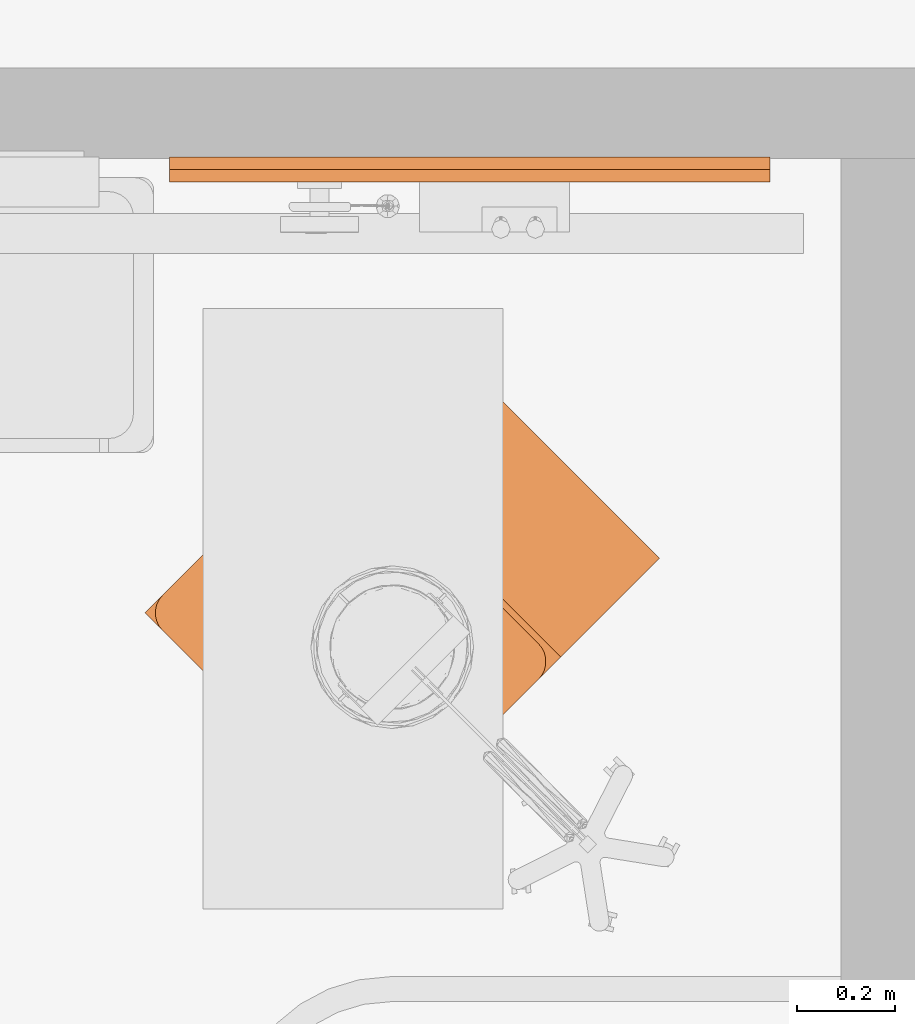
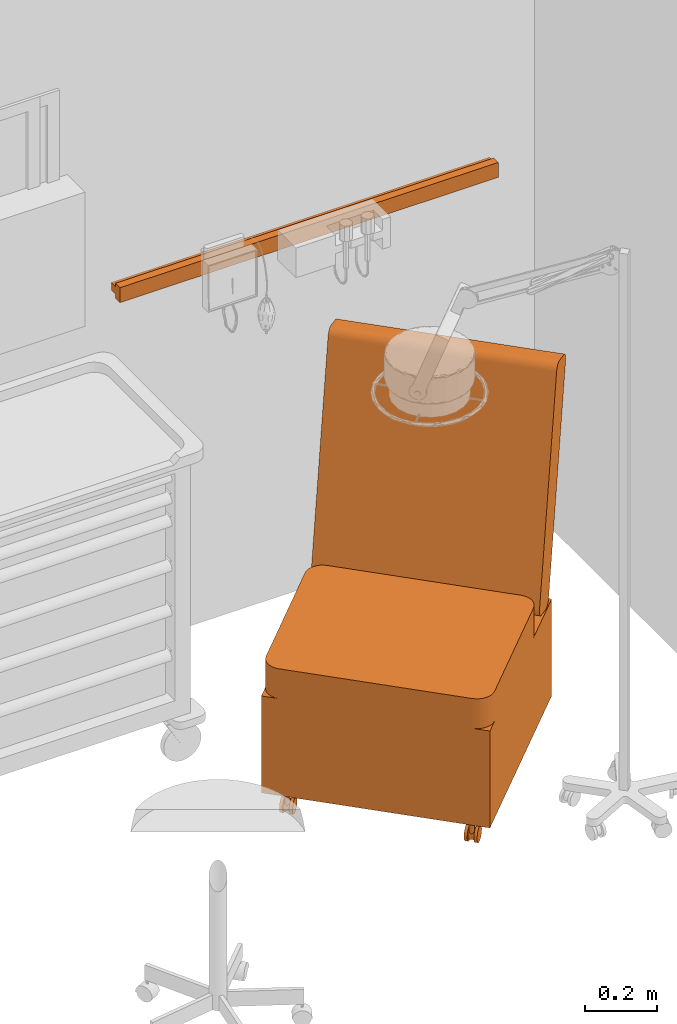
# One storey, part 45 of 142: 2 proxies.
"""IFC2X3 building model written with IfcOpenShell, lengths in feet."""

from ifc_helpers import new_model, entity, si_unit, converted_unit, derived_unit, direction, frame, frame_2d, origin, origin_2d_with_axis, place, context, subcontext, project, spatial, polyline, circle_curve, parameter, trimmed, segment, composite_curve, rectangle, circle, outline, extrude, source, transform, mapped, type_object, type_shapes, element, save


model = new_model("IFC2X3")

# Units and contexts
model_context = context("Model", 3, precision=0.0001, world=origin(), true_north=direction((6.12303176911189e-17, 1.0)))
body_context = subcontext(model_context, "Body", "Model", "MODEL_VIEW")
ifc_project = project(units=[converted_unit("LENGTHUNIT", "FOOT", entity("IfcRatioMeasure", 0.3048), si_unit("LENGTHUNIT", "METRE"), dimensions=[1, 0, 0, 0, 0, 0, 0]), converted_unit("AREAUNIT", "SQUARE FOOT", entity("IfcRatioMeasure", 0.09290304), si_unit("AREAUNIT", "SQUARE_METRE"), dimensions=[2, 0, 0, 0, 0, 0, 0]), converted_unit("VOLUMEUNIT", "CUBIC FOOT", entity("IfcRatioMeasure", 0.028316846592), si_unit("VOLUMEUNIT", "CUBIC_METRE"), dimensions=[3, 0, 0, 0, 0, 0, 0]), converted_unit("PLANEANGLEUNIT", "DEGREE", entity("IfcRatioMeasure", 0.0174532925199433), si_unit("PLANEANGLEUNIT", "RADIAN"), dimensions=[0, 0, 0, 0, 0, 0, 0]), si_unit("MASSUNIT", "GRAM", prefix="KILO"), derived_unit("MASSDENSITYUNIT", [(si_unit("MASSUNIT", "GRAM", prefix="KILO"), 1), (si_unit("LENGTHUNIT", "METRE"), -3)]), si_unit("TIMEUNIT", "SECOND"), si_unit("FREQUENCYUNIT", "HERTZ"), si_unit("THERMODYNAMICTEMPERATUREUNIT", "DEGREE_CELSIUS"), derived_unit("THERMALTRANSMITTANCEUNIT", [(si_unit("MASSUNIT", "GRAM", prefix="KILO"), 1), (si_unit("THERMODYNAMICTEMPERATUREUNIT", "KELVIN"), -1), (si_unit("TIMEUNIT", "SECOND"), -3)]), derived_unit("VOLUMETRICFLOWRATEUNIT", [(si_unit("LENGTHUNIT", "METRE"), 3), (si_unit("TIMEUNIT", "SECOND"), -1)]), si_unit("ELECTRICCURRENTUNIT", "AMPERE"), si_unit("ELECTRICVOLTAGEUNIT", "VOLT"), si_unit("POWERUNIT", "WATT"), si_unit("FORCEUNIT", "NEWTON"), si_unit("ILLUMINANCEUNIT", "LUX"), si_unit("LUMINOUSFLUXUNIT", "LUMEN"), si_unit("LUMINOUSINTENSITYUNIT", "CANDELA"), derived_unit("USERDEFINED", [(si_unit("MASSUNIT", "GRAM", prefix="KILO"), -1), (si_unit("LENGTHUNIT", "METRE"), -2), (si_unit("TIMEUNIT", "SECOND"), 3), (si_unit("LUMINOUSFLUXUNIT", "LUMEN"), 1)]), derived_unit("LINEARVELOCITYUNIT", [(si_unit("LENGTHUNIT", "METRE"), 1), (si_unit("TIMEUNIT", "SECOND"), -1)]), si_unit("PRESSUREUNIT", "PASCAL"), derived_unit("USERDEFINED", [(si_unit("LENGTHUNIT", "METRE"), -2), (si_unit("MASSUNIT", "GRAM", prefix="KILO"), 1), (si_unit("TIMEUNIT", "SECOND"), -2)])], contexts=[model_context])

# Site, building, storey, space
site_placement = place(None, origin())
site = spatial("IfcSite", under=ifc_project, at=site_placement, Name="Default", CompositionType="ELEMENT")
building_placement = place(site_placement, origin())
building = spatial("IfcBuilding", under=site, at=building_placement, Name="OUTPATIENT / PACT CLINIC (Ch. 265)", CompositionType="ELEMENT")
storey_placement = place(building_placement, origin())
storey = spatial("IfcBuildingStorey", under=building, at=storey_placement, Name="LEVEL 1", CompositionType="ELEMENT", Elevation=0.0)
space_placement = place(storey_placement, origin())
space = spatial("IfcSpace", under=storey, at=space_placement, Name="EXPA1", CompositionType="ELEMENT", InteriorOrExteriorSpace="INTERNAL")

# Proxies
building_element_proxy_type_1 = type_object("IfcBuildingElementProxyType", Name="Exam/Treatment Table with Cabinet", PredefinedType="NOTDEFINED")
shared_shape_1 = source(origin(), body_context, "Body", "SweptSolid", [
    extrude(circle(Radius=0.0833333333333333, at=frame_2d((0.0, -1.38777878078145e-16), x_axis=(1.0, 0.0))), frame((-0.843750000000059, 0.432291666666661, 0.0833333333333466), z_axis=(1.0, 0.0, 0.0), x_axis=(0.0, 1.0, 0.0)), (0.0, 0.0, 1.0), 0.0312500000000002),
    extrude(circle(Radius=0.0260416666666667, at=frame_2d((0.0, -5.55111512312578e-17), x_axis=(1.0, 0.0))), frame((-0.87500000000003, 0.463541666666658, 0.0801325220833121), z_axis=(0.0, 0.0, 1.0), x_axis=(-1.0, 0.0, 0.0)), (0.0, 0.0, 1.0), 0.211534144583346),
    extrude(circle(Radius=0.0625, at=frame_2d((0.0, -2.77555756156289e-16), x_axis=(1.0, 0.0))), frame((-0.90625000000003, 0.432291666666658, 0.0833333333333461), z_axis=(1.0, 0.0, 0.0), x_axis=(0.0, -1.0, 0.0)), (0.0, 0.0, 1.0), 0.0625),
    extrude(circle(Radius=0.0833333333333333, at=frame_2d((0.0, -1.38777878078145e-16), x_axis=(1.0, 0.0))), frame((-0.93750000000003, 0.432291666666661, 0.0833333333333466), z_axis=(1.0, 0.0, 0.0), x_axis=(0.0, 1.0, 0.0)), (0.0, 0.0, 1.0), 0.0312500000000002),
    extrude(circle(Radius=0.0833333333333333, at=frame_2d((0.0, -3.7470027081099e-16), x_axis=(1.0, 0.0))), frame((0.81250000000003, 0.432291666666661, 0.083333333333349), z_axis=(1.0, 0.0, 0.0), x_axis=(0.0, 1.0, 0.0)), (0.0, 0.0, 1.0), 0.0312500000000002),
    extrude(circle(Radius=0.0260416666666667, at=frame_2d((0.0, -5.55111512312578e-17), x_axis=(1.0, 0.0))), frame((0.875000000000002, 0.463541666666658, 0.0801325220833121)), (0.0, 0.0, 1.0), 0.211534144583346),
    extrude(circle(Radius=0.0625, at=frame_2d((0.0, -1.11022302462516e-16), x_axis=(1.0, 0.0))), frame((0.843750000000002, 0.432291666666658, 0.0833333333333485), z_axis=(1.0, 0.0, 0.0), x_axis=(0.0, -1.0, 0.0)), (0.0, 0.0, 1.0), 0.0625),
    extrude(circle(Radius=0.0833333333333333, at=frame_2d((0.0, -3.7470027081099e-16), x_axis=(1.0, 0.0))), frame((0.906250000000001, 0.432291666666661, 0.083333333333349), z_axis=(1.0, 0.0, 0.0), x_axis=(0.0, 1.0, 0.0)), (0.0, 0.0, 1.0), 0.0312500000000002),
    extrude(circle(Radius=0.0833333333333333, at=frame_2d((0.0, -1.38777878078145e-16), x_axis=(1.0, 0.0))), frame((-0.843750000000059, -1.41145833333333, 0.0833333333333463), z_axis=(1.0, 0.0, 0.0), x_axis=(0.0, -1.0, 0.0)), (0.0, 0.0, 1.0), 0.0312500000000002),
    extrude(circle(Radius=0.0260416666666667, at=origin_2d_with_axis()), frame((-0.87500000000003, -1.44270833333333, 0.0801325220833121), z_axis=(0.0, 0.0, 1.0), x_axis=(-1.0, 0.0, 0.0)), (0.0, 0.0, 1.0), 0.211534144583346),
    extrude(circle(Radius=0.0625, at=frame_2d((0.0, -2.77555756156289e-16), x_axis=(1.0, 0.0))), frame((-0.90625000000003, -1.41145833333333, 0.0833333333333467), z_axis=(1.0, 0.0, 0.0), x_axis=(0.0, 1.0, 0.0)), (0.0, 0.0, 1.0), 0.0625),
    extrude(circle(Radius=0.0833333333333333, at=frame_2d((0.0, -1.38777878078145e-16), x_axis=(1.0, 0.0))), frame((-0.93750000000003, -1.41145833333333, 0.0833333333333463), z_axis=(1.0, 0.0, 0.0), x_axis=(0.0, -1.0, 0.0)), (0.0, 0.0, 1.0), 0.0312500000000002),
    extrude(circle(Radius=0.0833333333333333, at=frame_2d((0.0, -3.7470027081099e-16), x_axis=(1.0, 0.0))), frame((0.81250000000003, -1.41145833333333, 0.0833333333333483), z_axis=(1.0, 0.0, 0.0), x_axis=(0.0, -1.0, 0.0)), (0.0, 0.0, 1.0), 0.0312500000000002),
    extrude(circle(Radius=0.0260416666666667, at=origin_2d_with_axis()), frame((0.875000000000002, -1.44270833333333, 0.0801325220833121)), (0.0, 0.0, 1.0), 0.211534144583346),
    extrude(circle(Radius=0.0625, at=frame_2d((0.0, -1.11022302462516e-16), x_axis=(1.0, 0.0))), frame((0.843750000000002, -1.41145833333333, 0.0833333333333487), z_axis=(1.0, 0.0, 0.0), x_axis=(0.0, 1.0, 0.0)), (0.0, 0.0, 1.0), 0.0625),
    extrude(circle(Radius=0.0833333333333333, at=frame_2d((0.0, -3.7470027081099e-16), x_axis=(1.0, 0.0))), frame((0.906250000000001, -1.41145833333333, 0.0833333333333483), z_axis=(1.0, 0.0, 0.0), x_axis=(0.0, -1.0, 0.0)), (0.0, 0.0, 1.0), 0.0312500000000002),
    extrude(rectangle(XDim=2.1666666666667, YDim=2.18316882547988, at=origin_2d_with_axis()), frame((0.0, -0.491748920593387, 0.291666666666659), z_axis=(0.0, 0.0, 1.0), x_axis=(-1.0, 0.0, 0.0)), (0.0, 0.0, 1.0), 1.08333333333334),
    extrude(outline(composite_curve([segment(trimmed(circle_curve(frame_2d((-0.221258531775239, -1.14772335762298), x_axis=(1.0, 0.0)), 0.0833333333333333), [parameter(255.0)], [parameter(345.0)], True, "PARAMETER"), True, "CONTINUOUS"), segment(polyline([(-0.140764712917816, -1.16929161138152), (0.462739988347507, 1.08301859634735)]), True, "CONTINUOUS"), segment(trimmed(circle_curve(frame_2d((0.382246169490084, 1.10458685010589), x_axis=(1.0, 0.0)), 0.0833333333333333), [parameter(345.000000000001)], [parameter(75.0000000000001)], True, "PARAMETER"), True, "CONTINUOUS"), segment(polyline([(0.403814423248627, 1.18508066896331), (0.242826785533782, 1.2282171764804)]), True, "CONTINUOUS"), segment(trimmed(circle_curve(frame_2d((0.221258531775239, 1.14772335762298), x_axis=(1.0, 0.0)), 0.0833333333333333), [parameter(74.9999999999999)], [parameter(165.0)], True, "PARAMETER"), True, "CONTINUOUS"), segment(polyline([(0.140764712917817, 1.16929161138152), (-0.462739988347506, -1.08301859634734)]), True, "CONTINUOUS"), segment(trimmed(circle_curve(frame_2d((-0.382246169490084, -1.10458685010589), x_axis=(1.0, 0.0)), 0.0833333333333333), [parameter(165.0)], [parameter(255.0)], True, "PARAMETER"), True, "CONTINUOUS"), segment(polyline([(-0.403814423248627, -1.18508066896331), (-0.242826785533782, -1.2282171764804)]), True, "CONTINUOUS")], self_intersect=False)), frame((-1.08333333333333, 0.632933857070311, 2.62668441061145), z_axis=(1.0, 0.0, 0.0), x_axis=(0.0, 1.0, 0.0)), (0.0, 0.0, 1.0), 2.16666666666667),
    extrude(outline(composite_curve([segment(polyline([(-0.916666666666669, -0.854166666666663), (0.91666666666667, -0.854166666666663)]), True, "CONTINUOUS"), segment(trimmed(circle_curve(frame_2d((0.916666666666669, -0.687499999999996), x_axis=(-1.0, 0.0)), 0.166666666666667), [parameter(90.0000000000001)], [parameter(180.0)], True, "PARAMETER"), True, "CONTINUOUS"), segment(polyline([(1.08333333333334, -0.687499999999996), (1.08333333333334, 0.687499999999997)]), True, "CONTINUOUS"), segment(trimmed(circle_curve(frame_2d((0.916666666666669, 0.687499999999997), x_axis=(-1.0, 0.0)), 0.166666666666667), [parameter(180.0)], [parameter(270.0)], True, "PARAMETER"), True, "CONTINUOUS"), segment(polyline([(0.916666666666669, 0.854166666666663), (-0.91666666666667, 0.854166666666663)]), True, "CONTINUOUS"), segment(trimmed(circle_curve(frame_2d((-0.916666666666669, 0.687499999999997), x_axis=(-1.0, 0.0)), 0.166666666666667), [parameter(270.0)], [parameter(0.0)], True, "PARAMETER"), True, "CONTINUOUS"), segment(polyline([(-1.08333333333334, 0.687499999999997), (-1.08333333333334, -0.687499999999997)]), True, "CONTINUOUS"), segment(trimmed(circle_curve(frame_2d((-0.916666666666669, -0.687499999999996), x_axis=(-1.0, 0.0)), 0.166666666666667), [parameter(0.0)], [parameter(90.0000000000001)], True, "PARAMETER"), True, "CONTINUOUS")], self_intersect=False)), frame((0.0, -0.729166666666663, 1.375), z_axis=(0.0, 0.0, 1.0), x_axis=(-1.0, 0.0, 0.0)), (0.0, 0.0, 1.0), 0.333333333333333),
])
type_shapes(building_element_proxy_type_1, [shared_shape_1])
proxy_1_placement = place(space_placement, frame((445.004061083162, -913.509965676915, 0.0260416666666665), z_axis=(0.0, 0.0, 1.0), x_axis=(0.707106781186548, -0.707106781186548, 0.0)))
element("IfcBuildingElementProxy", 1, at=proxy_1_placement, inside=space, type_object=building_element_proxy_type_1, Name="M9025 - Exam Table1:Exam/Treatment Table with Cabinet", ObjectType="Exam/Treatment Table with Cabinet", context=body_context, shape_type="MappedRepresentation", body=[
    mapped(shared_shape_1, transform((0.0, 0.0, 0.0), scale=1.0)),
])
building_element_proxy_type_2 = type_object("IfcBuildingElementProxyType", Name="A1132 - Rail, Accessory Mounting", PredefinedType="NOTDEFINED")
shared_shape_2 = source(origin(), body_context, "Body", "SweptSolid", [
    extrude(outline(polyline([(0.0416666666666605, 0.0), (0.0833333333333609, 0.0), (0.083333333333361, 0.0833333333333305), (-0.0833333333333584, 0.0833333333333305), (-0.0833333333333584, 0.0), (-0.0416666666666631, 0.0), (-0.0416666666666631, -0.0833333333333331), (0.0416666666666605, -0.0833333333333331), (0.0416666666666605, 0.0)])), frame((-2.0, -0.0833333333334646, 0.0833333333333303), z_axis=(1.0, 0.0, 0.0), x_axis=(0.0, 0.0, 1.0)), (0.0, 0.0, 1.0), 4.0),
])
type_shapes(building_element_proxy_type_2, [shared_shape_2])
proxy_2_placement = place(space_placement, frame((445.281018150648, -910.827430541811, 4.0)))
element("IfcBuildingElementProxy", 2, at=proxy_2_placement, inside=space, type_object=building_element_proxy_type_2, Name="A1132 - Rail, Accessory Mounting:A1132 - Rail, Accessory Mounting", ObjectType="A1132 - Rail, Accessory Mounting", context=body_context, shape_type="MappedRepresentation", body=[
    mapped(shared_shape_2, transform((0.0, 0.0, 0.0), scale=1.0)),
])

save(model, "model.ifc")
